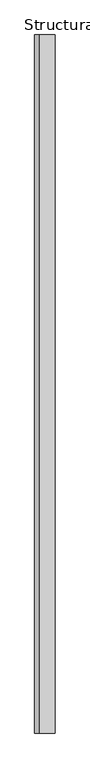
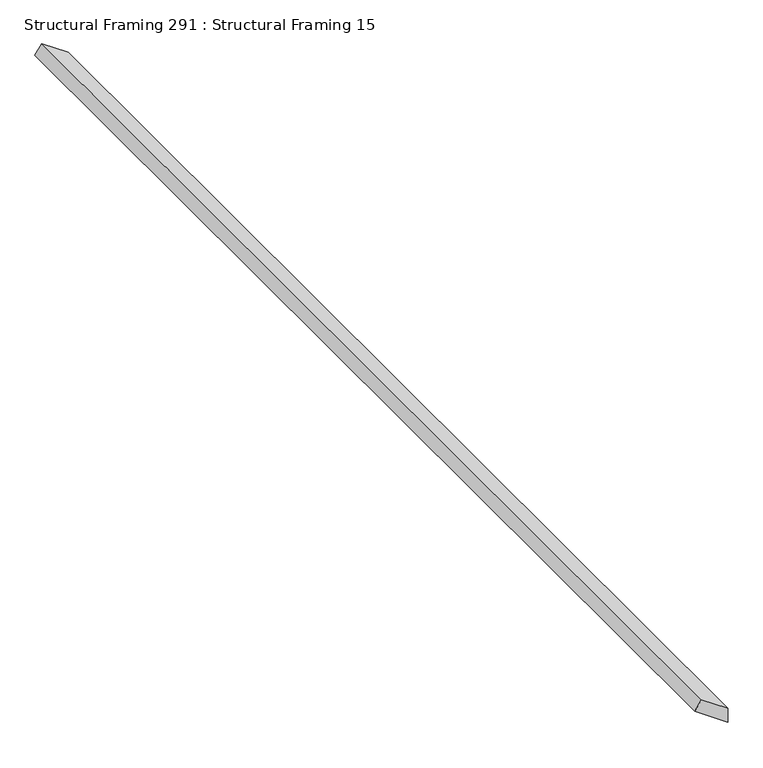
"""IFC4 building model written with IfcOpenShell, lengths in millimetres: beam geometry, Structural Framing 291 : Structural Framing 15."""

from ifc_helpers import new_model, si_unit, frame, origin, place, context, project, spatial, polyline, outline, extrude, source, transform, mapped, element, save


def structural_framing_291_structural_framing_15_41421fa0(model_context):
    return source(origin(), model_context, "Body", "SweptSolid", [
        extrude(outline(polyline([(100.0, 5062.7785255), (51.1319528, 5132.5693297), (81.6513175, 5132.5693297), (120.4788011, 5077.1179364), (100.0, 5062.7785255)])), frame((0.0, -6581.9491979, 0.0), z_axis=(0.0, 1.0, 0.0), x_axis=(0.0, 0.0, 1.0)), (0.0, 0.0, 1.0), 2400.0),
    ])


if __name__ == "__main__":
    model = new_model("IFC4")
    model_context = context("Model", 3, world=origin())
    ifc_project = project(units=[si_unit("LENGTHUNIT", "METRE", prefix="MILLI")], contexts=[model_context])
    site = spatial("IfcSite", under=ifc_project)
    building = spatial("IfcBuilding", under=site)
    placement = place(None, origin())
    structural_framing_291_structural_framing_15_shape = structural_framing_291_structural_framing_15_41421fa0(model_context)
    element("IfcBeam", 1, ObjectType="Structural Framing 291 : Structural Framing 15", at=placement, inside=building, context=model_context, shape_type="MappedRepresentation", body=[
        mapped(structural_framing_291_structural_framing_15_shape, transform((0.0, 0.0, 0.0), x_axis=(1.0, 0.0, 0.0), y_axis=(0.0, 1.0, 0.0), z_axis=(0.0, 0.0, 1.0))),
    ])
    save(model, "model.ifc")
